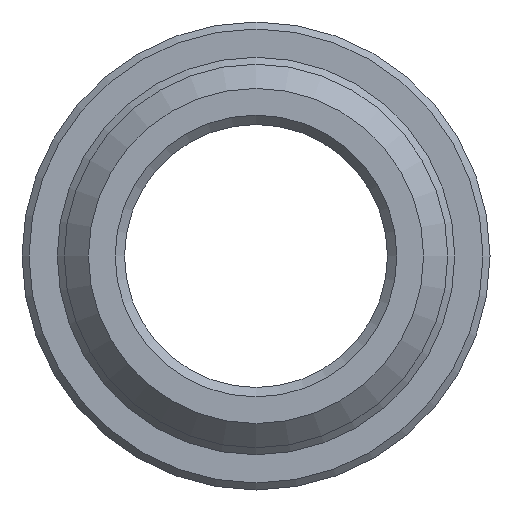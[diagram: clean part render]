
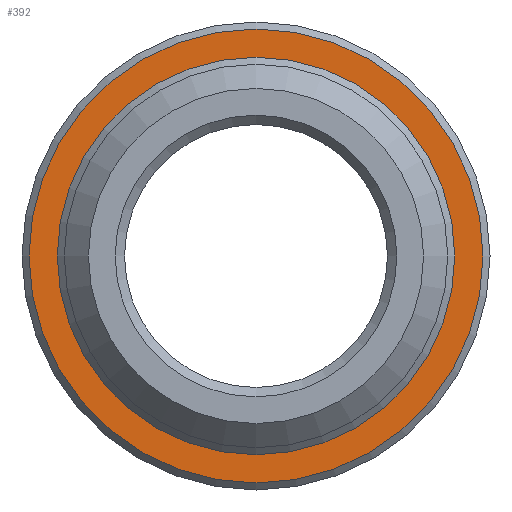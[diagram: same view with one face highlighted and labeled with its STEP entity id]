
A CAD part, front view. The second image highlights one B-rep face of the part: STEP entity #392.
In plain terms, the highlighted planar face has unit normal (0, -1, 0).
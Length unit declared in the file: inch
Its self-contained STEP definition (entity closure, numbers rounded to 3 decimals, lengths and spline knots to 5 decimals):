
#33=FACE_BOUND('',#86,.T.);
#44=PLANE('',#443);
#60=FACE_OUTER_BOUND('',#85,.T.);
#85=EDGE_LOOP('',(#316));
#86=EDGE_LOOP('',(#317));
#158=CIRCLE('',#442,0.4247);
#159=CIRCLE('',#444,0.485);
#195=VERTEX_POINT('',#678);
#196=VERTEX_POINT('',#682);
#243=EDGE_CURVE('',#195,#195,#158,.T.);
#244=EDGE_CURVE('',#196,#196,#159,.T.);
#316=ORIENTED_EDGE('',*,*,#244,.F.);
#317=ORIENTED_EDGE('',*,*,#243,.F.);
#392=ADVANCED_FACE('',(#60,#33),#44,.T.);
#442=AXIS2_PLACEMENT_3D('',#680,#536,#537);
#443=AXIS2_PLACEMENT_3D('',#681,#538,#539);
#444=AXIS2_PLACEMENT_3D('',#683,#540,#541);
#536=DIRECTION('center_axis',(0.,-1.,0.));
#537=DIRECTION('ref_axis',(0.,0.,-1.));
#538=DIRECTION('center_axis',(0.,-1.,0.));
#539=DIRECTION('ref_axis',(0.,0.,-1.));
#540=DIRECTION('center_axis',(0.,1.,0.));
#541=DIRECTION('ref_axis',(0.,0.,1.));
#678=CARTESIAN_POINT('',(0.,2.5,0.4247));
#680=CARTESIAN_POINT('Origin',(0.,2.5,0.));
#681=CARTESIAN_POINT('Origin',(0.,2.5,-0.42));
#682=CARTESIAN_POINT('',(0.,2.5,-0.485));
#683=CARTESIAN_POINT('Origin',(0.,2.5,0.));
